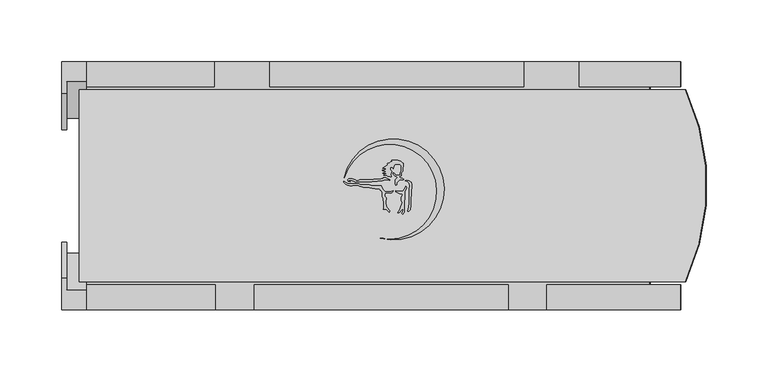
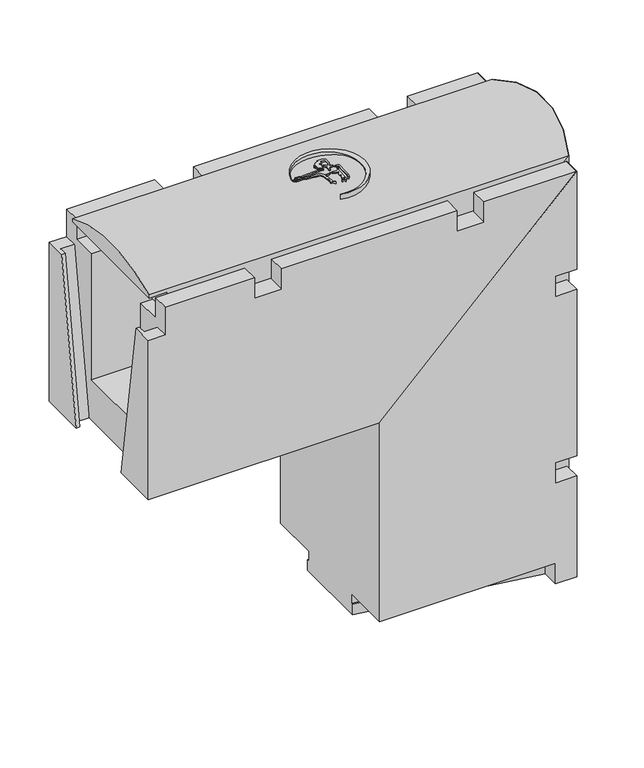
"""IFC4 building model written with IfcOpenShell, lengths in millimetres: cable carrier fitting geometry, Evotray type 1 vertical bend down : Evotray type 1 vertical bend down."""

from ifc_helpers import new_model, si_unit, point, frame, frame_2d, origin, place, context, project, spatial, polyline, circle_curve, ellipse_curve, trimmed, segment, composite_curve, outline, extrude, faceted_brep, source, transform, mapped, element, save
from ifc_brep_helpers import plane_surface, cylinder_surface, advanced_brep


def cable_carrier_fitting_acea0d08(model_context):
    return source(origin(), model_context, "Body", "SolidModel", [
        extrude(outline(composite_curve([segment(polyline([(-110.1987673, 5.907559), (-108.7730763, 5.0844359), (-109.4820077, 4.6751342), (-112.0469375, 4.6751342), (-114.5064308, 2.2156409), (-114.5064308, 0.6319729), (-115.5639447, 0.3486129), (-115.8953119, 1.5852919), (-115.5730905, 2.7878385), (-115.5730905, 5.0146536), (-114.1065498, 6.4811943), (-114.5064308, 7.1738084), (-115.5730905, 7.7896447), (-116.4313624, 8.2851682), (-117.4244859, 9.2782918), (-117.4244859, 10.5283487), (-116.6366917, 10.0735155), (-115.5730905, 9.0099142), (-114.5064308, 8.394078), (-112.1936661, 8.394078), (-111.5617675, 9.0259766), (-111.5617675, 10.6343813), (-111.1559104, 11.3373462), (-110.9163405, 12.2314336), (-110.9163405, 16.3268685), (-111.5617675, 16.9722955), (-115.5730905, 17.3232408), (-116.3212546, 16.8912881), (-116.7531031, 16.1433045), (-116.9754965, 15.313321), (-117.2482129, 13.7666695), (-117.8042347, 14.3226912), (-118.3698905, 14.8883471), (-119.3304254, 14.8883471), (-119.8048648, 14.0665939), (-119.8048648, 13.2416885), (-119.4028177, 12.5453225), (-118.675123, 11.8176278), (-119.0717623, 10.3373496), (-119.4092623, 9.0777826), (-119.1064549, 7.3604762), (-119.907248, 7.2192748), (-121.6376932, 7.6829462), (-122.8844025, 8.2642963), (-123.6376597, 8.6155459), (-125.2371082, 8.33352), (-124.7695498, 9.1433549), (-123.1127288, 9.7463885)]), True, "CONTINUOUS"), segment(trimmed(circle_curve(frame_2d((-123.6788564, 9.4744491)), 0.6280537), [point((-123.1127288, 9.7463885))], [point((-123.8344386, 10.0829273))], True, "CARTESIAN"), True, "CONTINUOUS"), segment(polyline([(-123.8344386, 10.0829273), (-125.7814537, 10.0829273), (-125.2232755, 10.6411054), (-124.3724958, 10.9507639), (-123.5540563, 11.2486515)]), True, "CONTINUOUS"), segment(trimmed(circle_curve(frame_2d((-124.2923812, 11.2486515)), 0.7383249), [point((-123.5540563, 11.2486515))], [point((-124.2923812, 11.9869764))], True, "CARTESIAN"), True, "CONTINUOUS"), segment(polyline([(-124.2923812, 11.9869764), (-126.0001288, 11.9869764), (-126.3916504, 12.6651117), (-124.5730583, 12.9857785), (-123.2767203, 13.457607), (-123.897473, 14.0783597), (-125.8606925, 14.0783597), (-125.30811, 14.6309421), (-124.2782773, 15.2255163), (-123.603553, 15.9002407), (-122.8807357, 16.3175594), (-121.9057237, 16.8804829)]), True, "CONTINUOUS"), segment(trimmed(circle_curve(frame_2d((-122.1167091, 17.2459203)), 0.4219708), [point((-121.9057237, 16.8804829))], [point((-122.3276945, 17.6113577))], True, "CARTESIAN"), True, "CONTINUOUS"), segment(polyline([(-122.3276945, 17.6113577), (-121.7102978, 18.2287544), (-120.4076278, 18.7028875), (-119.4125713, 19.2773836), (-118.2810347, 19.4769041), (-118.6348604, 20.4490324), (-113.6348604, 20.4490324), (-112.6206866, 19.9761154), (-111.4988316, 19.6755153), (-110.4843855, 19.0898245), (-109.3757091, 17.9811481), (-109.3757091, 15.4151328), (-109.8646262, 14.5683035), (-109.8646262, 11.8362675), (-110.3536612, 10.7875287), (-110.760463, 10.0829273), (-110.760463, 8.2341629), (-111.5617675, 7.7715296), (-112.3950459, 7.6246001)]), True, "CONTINUOUS"), segment(trimmed(circle_curve(frame_2d((-111.3420944, 7.3424626)), 1.0900956), [point((-112.3950459, 7.6246001))], [point((-111.6242319, 6.2895111))], True, "CARTESIAN"), True, "CONTINUOUS"), segment(polyline([(-111.6242319, 6.2895111), (-110.1987673, 5.907559)]), True, "CONTINUOUS")], self_intersect=False)), frame((0.0, 0.0, 229.0645802), z_axis=(0.0, 0.0, 1.0), x_axis=(1.0, 0.0, 0.0)), (0.0, 0.0, 1.0), 22.5),
        extrude(outline(polyline([(-105.6420581, 3.0525563), (-107.5647021, 4.1625953), (-106.375462, 4.4812513), (-105.0006066, 3.9808448), (-102.8744575, 2.753312), (-102.462808, 1.2170154), (-102.462808, -1.5561738), (-102.8811889, -3.9289297), (-103.2073261, -13.2682758), (-103.2073261, -16.1231727), (-103.766974, -19.297094), (-104.9259981, -20.4561181), (-105.8234867, -20.4561181), (-105.1486125, -18.6019165), (-104.8396569, -16.8497423), (-104.3251997, -13.9321102), (-104.3251997, -2.6926455), (-103.883565, -0.1880111), (-104.4260419, 1.8365401), (-105.6420581, 3.0525563)])), frame((0.0, 0.0, 229.0645802), z_axis=(0.0, 0.0, 1.0), x_axis=(1.0, 0.0, 0.0)), (0.0, 0.0, 1.0), 22.5),
        extrude(outline(composite_curve([segment(polyline([(-113.070307, -4.5554644), (-111.0881056, -4.5554644), (-109.6198413, -4.2965698), (-108.3145593, -2.9912878), (-107.1344504, -0.4605362), (-106.6534984, -1.7819409), (-107.2762062, -3.117342), (-107.9468137, -4.5554644), (-107.9468137, -10.5136603), (-108.3751928, -12.943119), (-108.3751928, -21.4242609), (-109.8238515, -22.8729196), (-110.3965887, -22.3001824), (-109.7178687, -20.5578122), (-109.4597233, -19.0937972)]), True, "CONTINUOUS"), segment(trimmed(circle_curve(frame_2d((-109.8743713, -19.0937972)), 0.414648), [point((-109.4597233, -19.0937972))], [point((-110.2890194, -19.0937972))], True, "CARTESIAN"), True, "CONTINUOUS"), segment(polyline([(-110.2890194, -19.0937972), (-111.0547081, -19.8594859), (-112.3215546, -21.3692548), (-112.9770637, -22.0247639), (-113.7693849, -21.6552984), (-111.605165, -18.4467105), (-111.2992553, -16.7118106), (-110.4571975, -14.9060116), (-110.19999, -13.4473154), (-110.9884987, -12.0815782), (-110.9884987, -9.315031), (-109.6653502, -7.4454743)]), True, "CONTINUOUS"), segment(trimmed(circle_curve(frame_2d((-110.0024552, -7.2068937)), 0.4129897), [point((-109.6653502, -7.4454743))], [point((-110.2410358, -6.8697887))], True, "CARTESIAN"), True, "CONTINUOUS"), segment(polyline([(-110.2410358, -6.8697887), (-112.2448508, -6.516462), (-113.6887473, -5.843162), (-115.508748, -4.9944818), (-115.508748, -4.1255015), (-113.070307, -4.5554644)]), True, "CONTINUOUS")], self_intersect=False)), frame((0.0, 0.0, 229.0645802), z_axis=(0.0, 0.0, 1.0), x_axis=(1.0, 0.0, 0.0)), (0.0, 0.0, 1.0), 22.5),
        extrude(outline(composite_curve([segment(polyline([(-155.4819029, 2.2537302), (-153.7462291, 1.4443722), (-149.5597552, 1.4443722), (-148.4890341, 1.731271), (-147.1624965, 1.731271), (-145.4413877, 1.4443722), (-143.4350656, 0.9067798), (-142.2818775, 0.597784), (-136.5899708, 0.597784), (-133.9734749, 0.1616293), (-132.6459123, -0.19409), (-127.03167, -0.19409)]), True, "CONTINUOUS"), segment(trimmed(circle_curve(frame_2d((-118.1781038, 2.7115165)), 9.3181642), [point((-127.03167, -0.19409))], [point((-123.6774022, -4.8108435))], True, "CARTESIAN"), True, "CONTINUOUS"), segment(polyline([(-123.6774022, -4.8108435), (-120.6256174, -4.8108435), (-118.5910388, -4.632841), (-117.4520349, -4.1017147), (-117.7095548, -5.0627921), (-118.6536491, -5.6078652), (-119.612336, -5.9567987), (-122.847041, -5.8438403), (-124.0357356, -6.2764898), (-124.44473, -7.153581), (-124.3696494, -8.0117562), (-123.8907652, -8.8412079), (-123.1701597, -9.5618134), (-123.1701597, -11.3180259), (-123.53546, -12.3216801), (-123.3911934, -13.970655), (-122.8861011, -15.8556852), (-122.737982, -17.5486944), (-120.3666469, -20.2766033), (-120.5753239, -21.4600691), (-123.1701597, -18.8652332), (-124.1329913, -19.1232231), (-125.5361675, -18.8758053), (-125.2606072, -18.1187094), (-125.2606072, -15.8446539), (-125.0850033, -14.8487551), (-125.2606072, -12.8415943), (-125.6362696, -11.8094702), (-125.6362696, -9.9842873), (-126.0826053, -9.0271173), (-126.0826053, -6.6493678), (-126.3310455, -5.7221762), (-126.7830159, -4.9393406), (-127.2317276, -4.1621491), (-127.84617, -3.5477067), (-128.2800213, -2.6173096), (-131.8809595, -2.4915621), (-134.2251115, -2.1008055), (-136.2577048, -1.5561738), (-139.5993244, -1.2049554), (-141.6789374, -1.2049554), (-143.021172, -0.8453047), (-144.5447671, -0.4370587), (-145.8880204, 0.1893106), (-146.8824091, 0.1893106), (-149.5338495, 0.1893106), (-150.6460936, -0.1087143), (-152.5093755, 0.0871245), (-153.9984504, 0.3353447), (-155.6717579, 1.1156208), (-156.6476843, 2.0915471), (-157.2867674, 2.7306302), (-157.2867674, 3.5175099), (-155.4819029, 2.2537302)]), True, "CONTINUOUS")], self_intersect=False)), frame((0.0, 0.0, 229.0645802), z_axis=(0.0, 0.0, 1.0), x_axis=(1.0, 0.0, 0.0)), (0.0, 0.0, 1.0), 22.5),
        extrude(outline(composite_curve([segment(polyline([(-152.9796703, 3.7977023), (-151.956356, 3.2068915), (-153.6840165, 3.7265624), (-154.014163, 4.6441261), (-153.1758386, 5.4824506), (-150.30302, 5.4824506), (-149.318583, 5.0847122), (-148.2280942, 4.6441261), (-147.4299007, 4.1832889), (-146.1696706, 4.1832889), (-145.3486455, 4.4787), (-144.4633932, 4.9898007), (-138.0496883, 4.9898007), (-137.1941137, 4.6441261), (-136.1237116, 4.6441261), (-135.1629915, 4.9898007), (-133.9838348, 4.9898007), (-133.2654957, 5.4045339), (-127.8528405, 5.4045339), (-127.0925598, 5.6780888), (-125.8504018, 5.6780888), (-125.2746333, 6.2538574), (-123.3170698, 6.2538574), (-122.0290688, 5.7334711), (-121.0171524, 5.1492409), (-120.2127113, 4.8242256)]), True, "CONTINUOUS"), segment(trimmed(circle_curve(frame_2d((-120.6200436, 4.6596527)), 0.4393221), [point((-120.2127113, 4.8242256))], [point((-120.7846166, 4.2523203))], False, "CARTESIAN"), True, "CONTINUOUS"), segment(polyline([(-120.7846166, 4.2523203), (-121.8003453, 4.6627013), (-123.112003, 4.6627013), (-124.382433, 4.8867124), (-125.1944574, 4.5945398), (-126.3374314, 4.1832889), (-129.6816293, 4.1832889), (-130.4727027, 3.7265624), (-134.0400229, 3.7265624), (-134.9228853, 3.2168416), (-144.9228853, 3.2168416), (-147.5335493, 2.9884381), (-151.222077, 4.4787), (-153.3728446, 4.4787), (-152.9796703, 3.7977023)]), True, "CONTINUOUS")], self_intersect=False)), frame((0.0, 0.0, 229.0645802), z_axis=(0.0, 0.0, 1.0), x_axis=(1.0, 0.0, 0.0)), (0.0, 0.0, 1.0), 22.5),
        extrude(outline(composite_curve([segment(trimmed(circle_curve(frame_2d((-120.3994103, -4.8721323)), 38.3616107), [point((-127.8072471, -42.511701))], [point((-157.1109456, 6.2578432))], True, "CARTESIAN"), True, "CONTINUOUS"), segment(trimmed(circle_curve(frame_2d((-117.2700096, -2.9917986)), 40.900563), [point((-157.1109456, 6.2578432))], [point((-127.8072471, -42.511701))], False, "CARTESIAN"), True, "CONTINUOUS")], self_intersect=False)), frame((0.0, 0.0, 229.0645802), z_axis=(0.0, 0.0, 1.0), x_axis=(1.0, 0.0, 0.0)), (0.0, 0.0, 1.0), 22.5),
        advanced_brep(
        [(90.0, -77.5, 205.0), (90.0, -77.5, -270.0), (118.9759433, -77.5, -270.0), (118.9759433, -77.5, -258.0), (119.0, -77.5, 234.0), (90.0, 77.5, -270.0), (90.0, 77.5, 205.0), (119.0, 77.5, 234.0), (119.0, 77.5, -258.0), (118.9759433, 77.5, -270.0)],
        [
            (0, 1),
            (1, 2),
            (2, 3),
            (3, 4),
            (4, 0),
            (5, 6),
            (6, 7),
            (7, 8),
            (8, 9),
            (9, 5),
            (1, 5),
            (9, 2),
            (6, 0),
            (4, 7, ellipse_curve(frame((-49.48293, 0.0, 65.51707), z_axis=(-0.7071067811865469, 0.0, 0.7071067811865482), x_axis=(-0.7071067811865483, 0.0, -0.7071067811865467)), 262.2698904, 185.452818)),
            (8, 3),
            (8, 3, circle_curve(frame((-49.48293, 0.0, -258.0), z_axis=(0.0, 0.0, -1.0), x_axis=(0.0, -1.0, 0.0)), 185.452818)),
        ],
        [
            plane_surface(frame((90.0, -77.5, -270.0), z_axis=(0.0, -1.0, 0.0), x_axis=(1.0, 0.0, 0.0))),
            plane_surface(frame((90.0, 77.5, -270.0), z_axis=(0.0, 1.0, 0.0), x_axis=(-1.0, 0.0, 0.0))),
            plane_surface(frame((90.0, -77.5, -270.0), z_axis=(0.0, 0.0, -1.0), x_axis=(0.0, 1.0, 0.0))),
            plane_surface(frame((136.0, -77.5, 251.0), z_axis=(-0.7071067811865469, 0.0, 0.7071067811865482), x_axis=(0.0, 1.0, 0.0))),
            plane_surface(frame((90.0, -77.5, 205.0), z_axis=(-1.0, 0.0, 0.0), x_axis=(0.0, 1.0, 0.0))),
            plane_surface(frame((118.9759433, -77.5, -270.0), z_axis=(1.0, 0.0, 0.0), x_axis=(0.0, 0.0, 1.0))),
            plane_surface(frame((118.9759433, -77.5, -258.0), z_axis=(0.0, 0.0, -1.0), x_axis=(1.0, 0.0, 0.0))),
            cylinder_surface(frame((-49.48293, 0.0, 228.0), z_axis=(0.0, 0.0, -1.0), x_axis=(0.0, -1.0, 0.0)), 185.452818),
        ],
        [
            (0, [[1, 2, 3, 4, 5]]),
            (1, [[6, 7, 8, 9, 10]]),
            (2, [[11, -10, 12, -2]]),
            (3, [[13, -5, 14, -7]]),
            (4, [[-1, -13, -6, -11]]),
            (5, [[15, -3, -12, -9]]),
            (6, [[-15, 16]]),
            (7, [[-4, -16, -8, -14]]),
        ],
    ),
        advanced_brep(
        [(-351.0, -77.5, 205.0), (90.0, -77.5, 205.0), (119.0, -77.5, 234.0), (-371.0, -77.5, 234.0), (-371.0, -77.5, 230.0), (-351.0, -77.5, 230.0), (90.0, 77.5, 205.0), (-351.0, 77.5, 205.0), (-351.0, 77.5, 230.0), (-371.0, 77.5, 230.0), (-371.0, 77.5, 234.0), (119.0, 77.5, 234.0)],
        [
            (0, 1),
            (1, 2),
            (2, 3),
            (3, 4),
            (4, 5),
            (5, 0),
            (6, 7),
            (7, 8),
            (8, 9),
            (9, 10),
            (10, 11),
            (11, 6),
            (9, 4),
            (3, 10, circle_curve(frame((-371.0, 0.0, 65.51707), z_axis=(-1.0, 0.0, 0.0), x_axis=(0.0, -1.0, 0.0)), 185.452818)),
            (6, 1),
            (0, 7),
            (11, 2, ellipse_curve(frame((-49.48293, 0.0, 65.51707), z_axis=(0.7071067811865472, 0.0, -0.7071067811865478), x_axis=(0.7071067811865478, 0.0, 0.7071067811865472)), 262.2698904, 185.452818)),
            (8, 5),
        ],
        [
            plane_surface(frame((-371.0, -77.5, 205.0), z_axis=(0.0, -1.0, 0.0), x_axis=(0.0, 0.0, -1.0))),
            plane_surface(frame((-371.0, 77.5, 205.0), z_axis=(0.0, 1.0, 0.0), x_axis=(0.0, 0.0, 1.0))),
            plane_surface(frame((-371.0, -77.5, 251.0), z_axis=(-1.0, 0.0, 0.0), x_axis=(0.0, 1.0, 0.0))),
            plane_surface(frame((-371.0, -77.5, 205.0), z_axis=(0.0, 0.0, -1.0), x_axis=(0.0, 1.0, 0.0))),
            plane_surface(frame((90.0, -77.5, 205.0), z_axis=(0.7071067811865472, 0.0, -0.7071067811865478), x_axis=(0.0, 1.0, 0.0))),
            plane_surface(frame((-371.0, 77.5, 230.0), z_axis=(0.0, 0.0, -1.0), x_axis=(-1.0, 0.0, 0.0))),
            plane_surface(frame((-351.0, -77.5, 230.0), z_axis=(-1.0, 0.0, 0.0), x_axis=(0.0, 0.0, -1.0))),
            cylinder_surface(frame((-371.0, 0.0, 65.51707), z_axis=(1.0, 0.0, 0.0), x_axis=(0.0, -1.0, 0.0)), 185.452818),
        ],
        [
            (0, [[1, 2, 3, 4, 5, 6]]),
            (1, [[7, 8, 9, 10, 11, 12]]),
            (2, [[13, -4, 14, -10]]),
            (3, [[15, -1, 16, -7]]),
            (4, [[-15, -12, 17, -2]]),
            (5, [[18, -5, -13, -9]]),
            (6, [[-18, -8, -16, -6]]),
            (7, [[-3, -17, -11, -14]]),
        ],
    ),
        faceted_brep([(115.0, -100.0, 230.0), (-115.0, -100.0, 0.0), (-115.0, -100.0, -245.0), (90.0, -100.0, -245.0), (90.0, -100.0, -270.0), (115.0, -100.0, -270.0), (115.0, -100.0, -146.0), (90.0, -100.0, -146.0), (90.0, -100.0, -121.0), (115.0, -100.0, -121.0), (115.0, -100.0, 84.0), (90.0, -100.0, 84.0), (90.0, -100.0, 109.0), (115.0, -100.0, 109.0), (-115.0, 100.0, 0.0), (115.0, 100.0, 230.0), (115.0, 100.0, 148.0), (90.0, 100.0, 148.0), (90.0, 100.0, 103.0), (115.0, 100.0, 103.0), (115.0, 100.0, -102.0), (90.0, 100.0, -102.0), (90.0, 100.0, -147.0), (115.0, 100.0, -147.0), (115.0, 100.0, -270.0), (90.0, 100.0, -270.0), (90.0, 100.0, -245.0), (-115.0, 100.0, -245.0), (90.0, -50.0, -270.0), (90.0, -80.0, -270.0), (-115.0, -45.4, -270.0), (-115.0, 45.4, -270.0), (90.0, 80.0, -270.0), (90.0, 50.0, -270.0), (-65.0, 50.0, -270.0), (-65.0, -50.0, -270.0), (115.0, -80.0, -270.0), (115.0, 80.0, -270.0), (115.0, -80.0, -121.0), (115.0, -80.0, 84.0), (115.0, 80.0, 103.0), (115.0, 80.0, -102.0), (115.0, -80.0, -146.0), (115.0, 80.0, -147.0), (115.0, -80.0, 230.0), (115.0, -80.0, 109.0), (115.0, 80.0, 230.0), (115.0, 80.0, 148.0), (90.0, -80.0, 205.0), (90.0, -50.0, 205.0), (-65.0, -50.0, 50.0), (-65.0, 50.0, 50.0), (90.0, 50.0, 205.0), (90.0, 80.0, 205.0), (-115.0, 43.0, -245.0), (-115.0, 43.0, -257.0), (-115.0, 45.4, -257.0), (-115.0, -45.4, -257.0), (-115.0, -43.0, -257.0), (-115.0, -43.0, -245.0), (90.0, -80.0, -257.0), (90.0, -80.0, -245.0), (90.0, -80.0, -146.0), (90.0, -80.0, -121.0), (90.0, -80.0, 84.0), (90.0, -80.0, 109.0), (90.0, 80.0, -147.0), (90.0, 80.0, -245.0), (90.0, 80.0, -257.0), (90.0, 80.0, 103.0), (90.0, 80.0, -102.0), (90.0, 80.0, 148.0), (90.0, -77.6, -245.0), (90.0, -77.6, -257.0), (90.0, 77.6, -257.0), (90.0, 77.6, -245.0)], [[[0, 1, 2, 3, 4, 5, 6, 7, 8, 9, 10, 11, 12, 13]], [[14, 15, 16, 17, 18, 19, 20, 21, 22, 23, 24, 25, 26, 27]], [[28, 29, 30, 31, 32, 33, 34, 35]], [[36, 5, 4, 29]], [[24, 37, 32, 25]], [[10, 9, 38, 39]], [[20, 19, 40, 41]], [[5, 36, 42, 6]], [[37, 24, 23, 43]], [[44, 0, 13, 45]], [[15, 46, 47, 16]], [[1, 0, 44, 48, 49, 50, 51, 52, 53, 46, 15, 14]], [[1, 14, 27, 54, 55, 56, 31, 30, 57, 58, 59, 2]], [[36, 29, 60, 61, 62, 42]], [[39, 38, 63, 64]], [[48, 44, 45, 65]], [[32, 37, 43, 66, 67, 68]], [[41, 40, 69, 70]], [[46, 53, 71, 47]], [[49, 48, 65, 12, 11, 64, 63, 8, 7, 62, 61, 72, 73, 60, 29, 28]], [[53, 52, 33, 32, 68, 74, 75, 67, 66, 22, 21, 70, 69, 18, 17, 71]], [[35, 50, 49, 28]], [[51, 34, 33, 52]], [[50, 35, 34, 51]], [[60, 29, 4, 3, 61]], [[29, 60, 57, 30]], [[32, 68, 67, 26, 25]], [[68, 32, 31, 56]], [[58, 73, 72, 59]], [[59, 72, 61, 3, 2]], [[73, 58, 57, 60]], [[54, 75, 74, 55]], [[75, 54, 27, 26, 67]], [[55, 74, 68, 56]], [[70, 21, 20, 41]], [[22, 66, 43, 23]], [[62, 7, 6, 42]], [[8, 63, 38, 9]], [[71, 17, 16, 47]], [[18, 69, 40, 19]], [[64, 11, 10, 39]], [[12, 65, 45, 13]]]),
        faceted_brep([(-385.0, -100.0, 0.0), (-115.0, -100.0, 0.0), (115.0, -100.0, 230.0), (6.6963481, -100.0, 230.0), (6.6963481, -100.0, 205.0), (-24.6518259, -100.0, 205.0), (-24.6518259, -100.0, 230.0), (-229.6518259, -100.0, 230.0), (-229.6518259, -100.0, 205.0), (-261.0, -100.0, 205.0), (-261.0, -100.0, 230.0), (-365.0130369, -100.0, 230.0), (-365.0130369, -100.0, 196.0), (-385.0, -100.0, 196.0), (115.0, 100.0, 230.0), (-115.0, 100.0, 0.0), (-385.0, 100.0, 0.0), (-385.0, 100.0, 196.0), (-365.0130369, 100.0, 196.0), (-365.0130369, 100.0, 230.0), (-262.0, 100.0, 230.0), (-262.0, 100.0, 205.0), (-217.0, 100.0, 205.0), (-217.0, 100.0, 230.0), (-12.0, 100.0, 230.0), (-12.0, 100.0, 205.0), (33.0, 100.0, 205.0), (33.0, 100.0, 230.0), (-24.6518259, -80.0, 230.0), (-229.6518259, -80.0, 230.0), (-217.0, 80.0, 230.0), (-12.0, 80.0, 230.0), (115.0, -80.0, 230.0), (6.6963481, -80.0, 230.0), (115.0, 80.0, 230.0), (33.0, 80.0, 230.0), (-365.0130369, -80.0, 230.0), (-261.0, -80.0, 230.0), (-365.0130369, 80.0, 230.0), (-262.0, 80.0, 230.0), (-385.0, -45.45, 0.0), (-385.0, -74.8926087, 196.0), (-385.0, 45.45, 0.0), (-385.0, 74.8926087, 196.0), (-381.0, -45.45, 0.0), (-381.0, -54.6, 0.0), (-365.0, -54.6, 0.0), (-365.0, 54.6, 0.0), (-381.0, 54.6, 0.0), (-381.0, 45.45, 0.0), (90.0, 80.0, 205.0), (90.0, 50.0, 205.0), (-65.0, 50.0, 50.0), (-65.0, -50.0, 50.0), (90.0, -50.0, 205.0), (90.0, -80.0, 205.0), (-381.0, 74.8926087, 196.0), (-381.0, -74.8926087, 196.0), (-365.0, 84.0426087, 196.0), (-381.0, 84.0426087, 196.0), (-381.0, -84.0426087, 196.0), (-365.0, -84.0426087, 196.0), (-365.0, -80.0, 205.0), (-365.0, -77.5, 205.0), (-365.0, -50.0, 205.0), (-365.0, -50.0, 50.0), (-365.0, 50.0, 50.0), (-365.0, 50.0, 205.0), (-365.0, 77.5, 205.0), (-365.0, 80.0, 205.0), (-24.6518259, -80.0, 205.0), (-229.6518259, -80.0, 205.0), (6.6963481, -80.0, 205.0), (-261.0, -80.0, 205.0), (-217.0, 80.0, 205.0), (-12.0, 80.0, 205.0), (33.0, 80.0, 205.0), (-262.0, 80.0, 205.0), (-351.0, 50.0, 205.0), (-351.0, -50.0, 205.0)], [[[0, 1, 2, 3, 4, 5, 6, 7, 8, 9, 10, 11, 12, 13]], [[14, 15, 16, 17, 18, 19, 20, 21, 22, 23, 24, 25, 26, 27]], [[7, 6, 28, 29]], [[24, 23, 30, 31]], [[2, 32, 33, 3]], [[34, 14, 27, 35]], [[36, 11, 10, 37]], [[19, 38, 39, 20]], [[40, 0, 13, 41]], [[16, 42, 43, 17]], [[1, 0, 40, 44, 45, 46, 47, 48, 49, 42, 16, 15]], [[2, 1, 15, 14, 34, 50, 51, 52, 53, 54, 55, 32]], [[42, 49, 56, 43]], [[44, 40, 41, 57]], [[48, 47, 58, 59]], [[45, 44, 57, 60]], [[49, 48, 59, 56]], [[46, 45, 60, 61]], [[47, 46, 61, 12, 11, 36, 62, 63, 64, 65, 66, 67, 68, 69, 38, 19, 18, 58]], [[12, 61, 60, 57, 41, 13]], [[58, 18, 17, 43, 56, 59]], [[29, 28, 70, 71]], [[32, 55, 72, 33]], [[62, 36, 37, 73]], [[31, 30, 74, 75]], [[50, 34, 35, 76]], [[38, 69, 77, 39]], [[51, 50, 76, 26, 25, 75, 74, 22, 21, 77, 69, 68, 67, 78]], [[55, 54, 79, 64, 63, 62, 73, 9, 8, 71, 70, 5, 4, 72]], [[53, 65, 64, 79, 54]], [[66, 52, 51, 78, 67]], [[65, 53, 52, 66]], [[77, 21, 20, 39]], [[22, 74, 30, 23]], [[9, 73, 37, 10]], [[71, 8, 7, 29]], [[75, 25, 24, 31]], [[26, 76, 35, 27]], [[5, 70, 28, 6]], [[72, 4, 3, 33]]]),
    ])


if __name__ == "__main__":
    model = new_model("IFC4")
    model_context = context("Model", 3, world=origin())
    ifc_project = project(units=[si_unit("LENGTHUNIT", "METRE", prefix="MILLI")], contexts=[model_context])
    site = spatial("IfcSite", under=ifc_project)
    building = spatial("IfcBuilding", under=site)
    placement = place(None, origin())
    cable_carrier_fitting_shape = cable_carrier_fitting_acea0d08(model_context)
    element("IfcCableCarrierFitting", 1, ObjectType="Evotray type 1 vertical bend down : Evotray type 1 vertical bend down", at=placement, inside=building, context=model_context, shape_type="MappedRepresentation", body=[
        mapped(cable_carrier_fitting_shape, transform((0.0, 0.0, 0.0), x_axis=(1.0, 0.0, 0.0), y_axis=(0.0, 1.0, 0.0), z_axis=(0.0, 0.0, 1.0))),
    ])
    save(model, "model.ifc")
